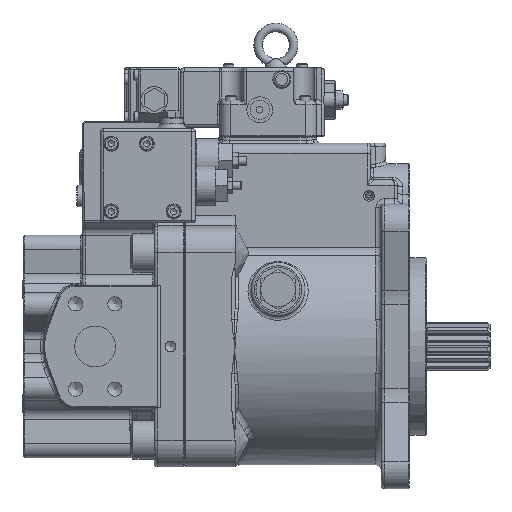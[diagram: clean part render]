
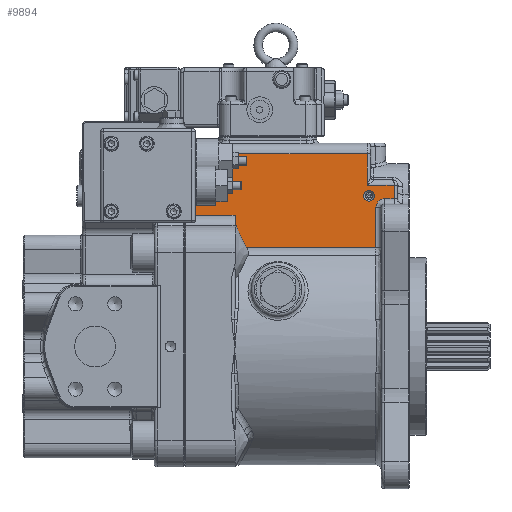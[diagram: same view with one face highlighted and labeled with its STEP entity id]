
A CAD part, left-side view. The second image highlights one B-rep face of the part: STEP entity #9894.
In plain terms, the highlighted planar face has unit normal (-1, 0, 0).
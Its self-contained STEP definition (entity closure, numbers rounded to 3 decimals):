
#6758=CARTESIAN_POINT('',(-66.669,219.894,94.955));
#6759=VERTEX_POINT('',#6758);
#6784=CARTESIAN_POINT('',(-66.669,173.894,94.955));
#6785=VERTEX_POINT('',#6784);
#6793=CARTESIAN_POINT('',(-66.669,219.894,94.955));
#6794=DIRECTION('',(0.0,-1.0,0.0));
#6795=VECTOR('',#6794,46.0);
#6796=LINE('',#6793,#6795);
#6797=EDGE_CURVE('',#6759,#6785,#6796,.T.);
#6871=CARTESIAN_POINT('',(-66.669,173.894,86.955));
#6872=VERTEX_POINT('',#6871);
#6879=CARTESIAN_POINT('',(-66.669,173.894,86.955));
#6880=DIRECTION('',(0.0,0.0,1.0));
#6881=VECTOR('',#6880,8.);
#6882=LINE('',#6879,#6881);
#6883=EDGE_CURVE('',#6872,#6785,#6882,.T.);
#7560=CARTESIAN_POINT('',(-66.669,42.894,64.993));
#7561=VERTEX_POINT('',#7560);
#7571=CARTESIAN_POINT('',(-66.669,163.32,64.993));
#7572=VERTEX_POINT('',#7571);
#7573=CARTESIAN_POINT('',(-66.669,163.32,64.993));
#7574=DIRECTION('',(0.0,-1.0,0.0));
#7575=VECTOR('',#7574,120.426);
#7576=LINE('',#7573,#7575);
#7577=EDGE_CURVE('',#7572,#7561,#7576,.T.);
#8172=CARTESIAN_POINT('',(-66.669,219.894,151.955));
#8173=VERTEX_POINT('',#8172);
#8174=CARTESIAN_POINT('',(-66.669,219.894,94.955));
#8175=DIRECTION('',(0.0,0.0,1.0));
#8176=VECTOR('',#8175,57.);
#8177=LINE('',#8174,#8176);
#8178=EDGE_CURVE('',#6759,#8173,#8177,.T.);
#9811=CARTESIAN_POINT('',(-66.669,223.894,94.955));
#9812=DIRECTION('',(-1.0,0.0,0.0));
#9813=DIRECTION('',(0.0,0.0,1.0));
#9814=AXIS2_PLACEMENT_3D('',#9811,#9812,#9813);
#9815=PLANE('',#9814);
#9816=CARTESIAN_POINT('',(-66.669,50.894,151.955));
#9817=VERTEX_POINT('',#9816);
#9818=CARTESIAN_POINT('',(-66.669,50.894,122.955));
#9819=VERTEX_POINT('',#9818);
#9820=CARTESIAN_POINT('',(-66.669,50.894,151.955));
#9821=DIRECTION('',(0.0,0.0,-1.0));
#9822=VECTOR('',#9821,29.0);
#9823=LINE('',#9820,#9822);
#9824=EDGE_CURVE('',#9817,#9819,#9823,.T.);
#9825=ORIENTED_EDGE('',*,*,#9824,.F.);
#9826=CARTESIAN_POINT('',(-66.669,219.894,151.955));
#9827=DIRECTION('',(0.0,-1.0,0.0));
#9828=VECTOR('',#9827,169.);
#9829=LINE('',#9826,#9828);
#9830=EDGE_CURVE('',#8173,#9817,#9829,.T.);
#9831=ORIENTED_EDGE('',*,*,#9830,.F.);
#9832=ORIENTED_EDGE('',*,*,#8178,.F.);
#9833=ORIENTED_EDGE('',*,*,#6797,.T.);
#9834=ORIENTED_EDGE('',*,*,#6883,.F.);
#9835=CARTESIAN_POINT('',(-66.669,173.894,86.955));
#9836=DIRECTION('',(0.,-0.434,-0.901));
#9837=VECTOR('',#9836,24.375);
#9838=LINE('',#9835,#9837);
#9839=EDGE_CURVE('',#6872,#7572,#9838,.T.);
#9840=ORIENTED_EDGE('',*,*,#9839,.T.);
#9841=ORIENTED_EDGE('',*,*,#7577,.T.);
#9842=CARTESIAN_POINT('',(-66.669,42.894,102.205));
#9843=VERTEX_POINT('',#9842);
#9844=CARTESIAN_POINT('',(-66.669,42.894,102.205));
#9845=DIRECTION('',(0.0,0.0,-1.0));
#9846=VECTOR('',#9845,37.212);
#9847=LINE('',#9844,#9846);
#9848=EDGE_CURVE('',#9843,#7561,#9847,.T.);
#9849=ORIENTED_EDGE('',*,*,#9848,.F.);
#9850=CARTESIAN_POINT('',(-66.669,34.894,110.205));
#9851=VERTEX_POINT('',#9850);
#9852=CARTESIAN_POINT('',(-66.669,34.894,102.205));
#9853=DIRECTION('',(-1.0,0.,0.));
#9854=DIRECTION('',(0.,0.707,0.707));
#9855=AXIS2_PLACEMENT_3D('',#9852,#9853,#9854);
#9856=CIRCLE('',#9855,8.0);
#9857=EDGE_CURVE('',#9851,#9843,#9856,.T.);
#9858=ORIENTED_EDGE('',*,*,#9857,.F.);
#9859=CARTESIAN_POINT('',(-66.669,25.894,110.205));
#9860=VERTEX_POINT('',#9859);
#9861=CARTESIAN_POINT('',(-66.669,25.894,110.205));
#9862=DIRECTION('',(0.0,1.0,0.0));
#9863=VECTOR('',#9862,9.);
#9864=LINE('',#9861,#9863);
#9865=EDGE_CURVE('',#9860,#9851,#9864,.T.);
#9866=ORIENTED_EDGE('',*,*,#9865,.F.);
#9867=CARTESIAN_POINT('',(-66.669,25.894,122.955));
#9868=VERTEX_POINT('',#9867);
#9869=CARTESIAN_POINT('',(-66.669,25.894,122.955));
#9870=DIRECTION('',(0.0,0.0,-1.0));
#9871=VECTOR('',#9870,12.75);
#9872=LINE('',#9869,#9871);
#9873=EDGE_CURVE('',#9868,#9860,#9872,.T.);
#9874=ORIENTED_EDGE('',*,*,#9873,.F.);
#9875=CARTESIAN_POINT('',(-66.669,25.894,122.955));
#9876=DIRECTION('',(0.0,1.0,0.0));
#9877=VECTOR('',#9876,25.);
#9878=LINE('',#9875,#9877);
#9879=EDGE_CURVE('',#9868,#9819,#9878,.T.);
#9880=ORIENTED_EDGE('',*,*,#9879,.T.);
#9881=EDGE_LOOP('',(#9825,#9831,#9832,#9833,#9834,#9840,#9841,#9849,#9858,#9866,#9874,#9880));
#9882=FACE_OUTER_BOUND('',#9881,.T.);
#9883=CARTESIAN_POINT('',(-66.669,49.394,117.955));
#9884=VERTEX_POINT('',#9883);
#9885=CARTESIAN_POINT('',(-66.669,49.394,112.955));
#9886=DIRECTION('',(1.0,0.0,0.0));
#9887=DIRECTION('',(0.0,0.0,1.0));
#9888=AXIS2_PLACEMENT_3D('',#9885,#9886,#9887);
#9889=CIRCLE('',#9888,5.);
#9890=EDGE_CURVE('',#9884,#9884,#9889,.T.);
#9891=ORIENTED_EDGE('',*,*,#9890,.T.);
#9892=EDGE_LOOP('',(#9891));
#9893=FACE_BOUND('',#9892,.T.);
#9894=ADVANCED_FACE('',(#9882,#9893),#9815,.T.);
